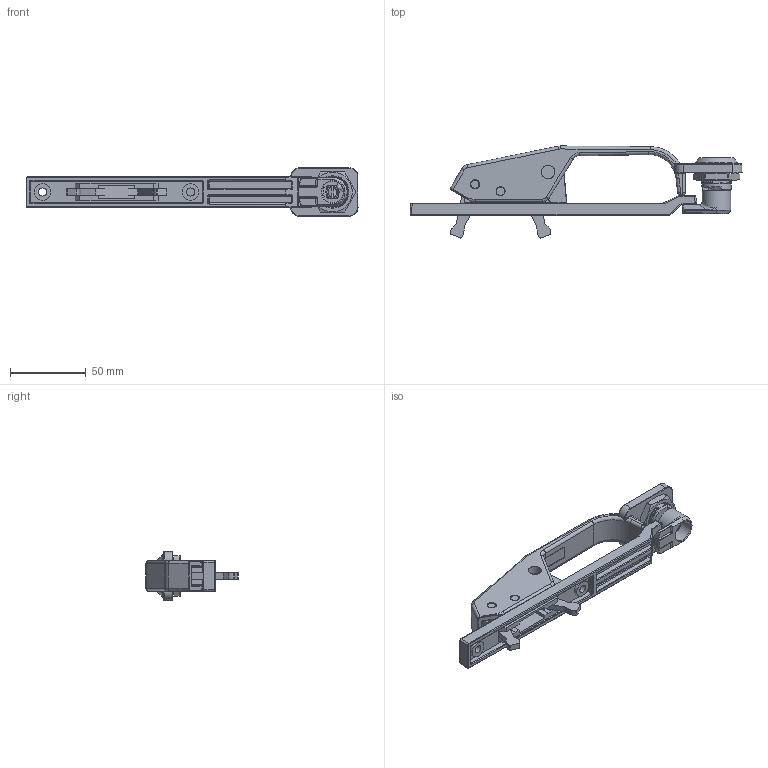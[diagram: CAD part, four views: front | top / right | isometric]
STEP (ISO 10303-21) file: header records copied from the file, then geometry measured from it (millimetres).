
FILE_DESCRIPTION (( 'STEP AP203' ), '1' );
FILE_NAME ('MS887Z1DT02001.STEP', '2021-05-27T10:14:34', ( '' ), ( '' ), 'SwSTEP 2.0', 'SolidWorks 2020', '' );
FILE_SCHEMA (( 'CONFIG_CONTROL_DESIGN' ));
Length unit declared in the file: millimetre
Products named in the file (1): MS887Z1DT02001
Bounding box: 219.86 x 60.98 x 32.2 mm (x, y, z)
Surface area: 41681.1 mm2 (no closed solid volume)
Topology: 0 solids, 15 shells, 522 faces, 1743 edges, 1228 vertices
Faces by surface type: cylinder 188, plane 161, bspline 153, cone 20
Full cylindrical faces by diameter (mm): 4 x1, 5.3 x2, 6 x4, 9 x2, 11 x2, 14.5 x1, 15.8 x1, 16 x1, 19 x1, 28 x1
Entity records: 36647 total; most frequent: CARTESIAN_POINT 24267, ORIENTED_EDGE 2791, DIRECTION 1777, EDGE_CURVE 1684, VERTEX_POINT 1212, B_SPLINE_CURVE_WITH_KNOTS 754, AXIS2_PLACEMENT_3D 601, EDGE_LOOP 581
